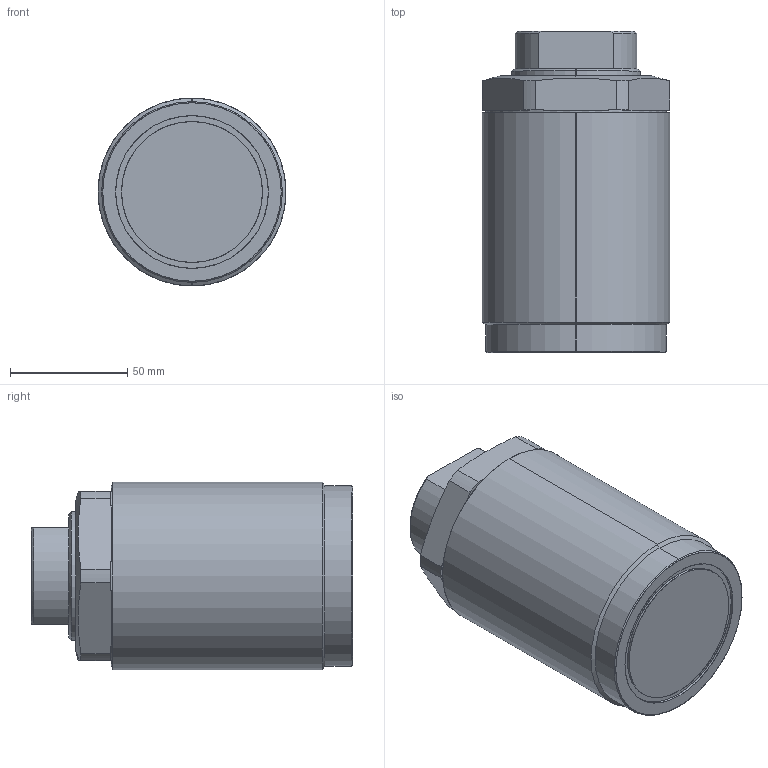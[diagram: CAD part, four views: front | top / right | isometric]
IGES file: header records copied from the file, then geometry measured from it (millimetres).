
Start section: SolidWorks IGES file using analytic representation for surfaces
Global section: file name: D:\karuppas\Clasp\3D model\Thread body cylinder\T03C-M808-L threaded pusher\T03C-M808-L threaded pushe.IGS; native system: SolidWorks 2017; preprocessor: SolidWorks 2017; author: pc; date: 220709.231805; units: millimetre
Bounding box: 80 x 137 x 80 mm (x, y, z)
Surface area: 58937.6 mm2 (no closed solid volume)
Topology: 0 solids, 0 shells, 261 faces, 4208 edges, 4206 vertices
Faces by surface type: bspline 221, revolution 40
